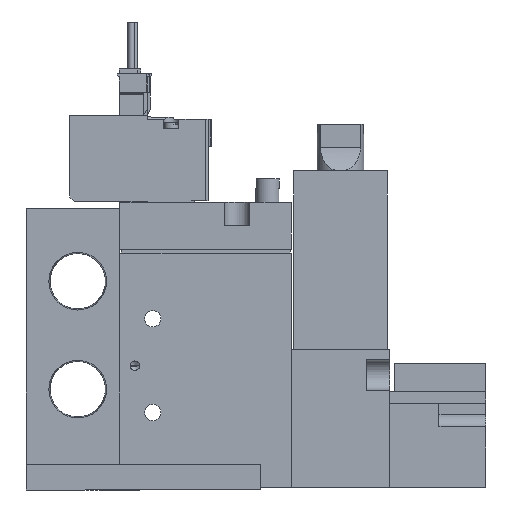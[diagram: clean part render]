
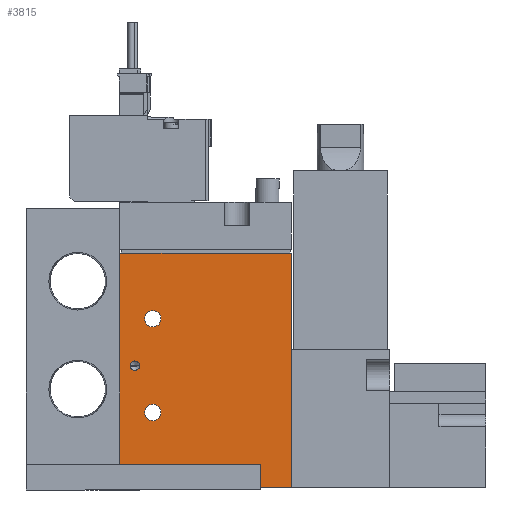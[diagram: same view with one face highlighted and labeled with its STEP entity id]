
A CAD part, left-side view. The second image highlights one B-rep face of the part: STEP entity #3815.
In plain terms, the highlighted planar face has unit normal (-1, 0, 0) as drawn and (1, 0, 0) by its records, which use the part's own axes.
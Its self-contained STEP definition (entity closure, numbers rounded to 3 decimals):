
#3815=ADVANCED_FACE('',(#5749,#5750,#5751,#5752),#5753,.F.);
#5749=FACE_BOUND('',#9926,.T.);
#5750=FACE_BOUND('',#9927,.T.);
#5751=FACE_BOUND('',#9928,.T.);
#5752=FACE_OUTER_BOUND('',#9929,.T.);
#5753=PLANE('',#9930);
#9926=EDGE_LOOP('',(#14432));
#9927=EDGE_LOOP('',(#14433));
#9928=EDGE_LOOP('',(#14434));
#9929=EDGE_LOOP('',(#14435,#14436,#14437,#14438));
#9930=AXIS2_PLACEMENT_3D('',#14439,#14440,#14441);
#14432=ORIENTED_EDGE('',*,*,#28695,.F.);
#14433=ORIENTED_EDGE('',*,*,#28674,.T.);
#14434=ORIENTED_EDGE('',*,*,#28670,.T.);
#14435=ORIENTED_EDGE('',*,*,#28685,.T.);
#14436=ORIENTED_EDGE('',*,*,#28690,.F.);
#14437=ORIENTED_EDGE('',*,*,#28691,.F.);
#14438=ORIENTED_EDGE('',*,*,#28687,.T.);
#14439=CARTESIAN_POINT('',(8.5,-19.444,50.0));
#14440=DIRECTION('',(-1.0,0.0,0.0));
#14441=DIRECTION('',(0.0,0.0,1.0));
#28670=EDGE_CURVE('',#33306,#33306,#33307,.T.);
#28674=EDGE_CURVE('',#33312,#33312,#33313,.T.);
#28685=EDGE_CURVE('',#33334,#33332,#33335,.T.);
#28687=EDGE_CURVE('',#33337,#33334,#33338,.T.);
#28690=EDGE_CURVE('',#33340,#33332,#33342,.T.);
#28691=EDGE_CURVE('',#33337,#33340,#33343,.T.);
#28695=EDGE_CURVE('',#33348,#33348,#33349,.T.);
#33306=VERTEX_POINT('',#41120);
#33307=CIRCLE('',#41121,1.75);
#33312=VERTEX_POINT('',#41126);
#33313=CIRCLE('',#41127,1.75);
#33332=VERTEX_POINT('',#41150);
#33334=VERTEX_POINT('',#41153);
#33335=LINE('',#41154,#41155);
#33337=VERTEX_POINT('',#41158);
#33338=LINE('',#41159,#41160);
#33340=VERTEX_POINT('',#41163);
#33342=LINE('',#41166,#41167);
#33343=LINE('',#41168,#41169);
#33348=VERTEX_POINT('',#41174);
#33349=CIRCLE('',#41175,1.0);
#41120=CARTESIAN_POINT('',(8.5,-10.694,16.0));
#41121=AXIS2_PLACEMENT_3D('',#52631,#52632,#52633);
#41126=CARTESIAN_POINT('',(8.5,-10.694,36.0));
#41127=AXIS2_PLACEMENT_3D('',#52640,#52641,#52642);
#41150=CARTESIAN_POINT('',(8.5,17.056,0.0));
#41153=CARTESIAN_POINT('',(8.5,-19.444,0.0));
#41154=CARTESIAN_POINT('',(8.5,-19.444,0.0));
#41155=VECTOR('',#52663,1.0);
#41158=CARTESIAN_POINT('',(8.5,-19.444,50.0));
#41159=CARTESIAN_POINT('',(8.5,-19.444,50.0));
#41160=VECTOR('',#52665,1.0);
#41163=CARTESIAN_POINT('',(8.5,17.056,50.0));
#41166=CARTESIAN_POINT('',(8.5,17.056,50.0));
#41167=VECTOR('',#52668,1.0);
#41168=CARTESIAN_POINT('',(8.5,-19.444,50.0));
#41169=VECTOR('',#52669,1.0);
#41174=CARTESIAN_POINT('',(8.5,-17.244,26.0));
#41175=AXIS2_PLACEMENT_3D('',#52676,#52677,#52678);
#52631=CARTESIAN_POINT('',(8.5,-12.444,16.0));
#52632=DIRECTION('',(-1.0,0.0,0.0));
#52633=DIRECTION('',(0.0,1.0,0.0));
#52640=CARTESIAN_POINT('',(8.5,-12.444,36.0));
#52641=DIRECTION('',(-1.0,0.0,0.0));
#52642=DIRECTION('',(0.0,1.0,0.0));
#52663=DIRECTION('',(0.0,1.0,0.0));
#52665=DIRECTION('',(0.0,0.0,-1.0));
#52668=DIRECTION('',(0.0,0.0,-1.0));
#52669=DIRECTION('',(0.0,1.0,0.0));
#52676=CARTESIAN_POINT('',(8.5,-16.244,26.0));
#52677=DIRECTION('',(1.0,0.,0.0));
#52678=DIRECTION('',(0.,-1.0,0.0));
